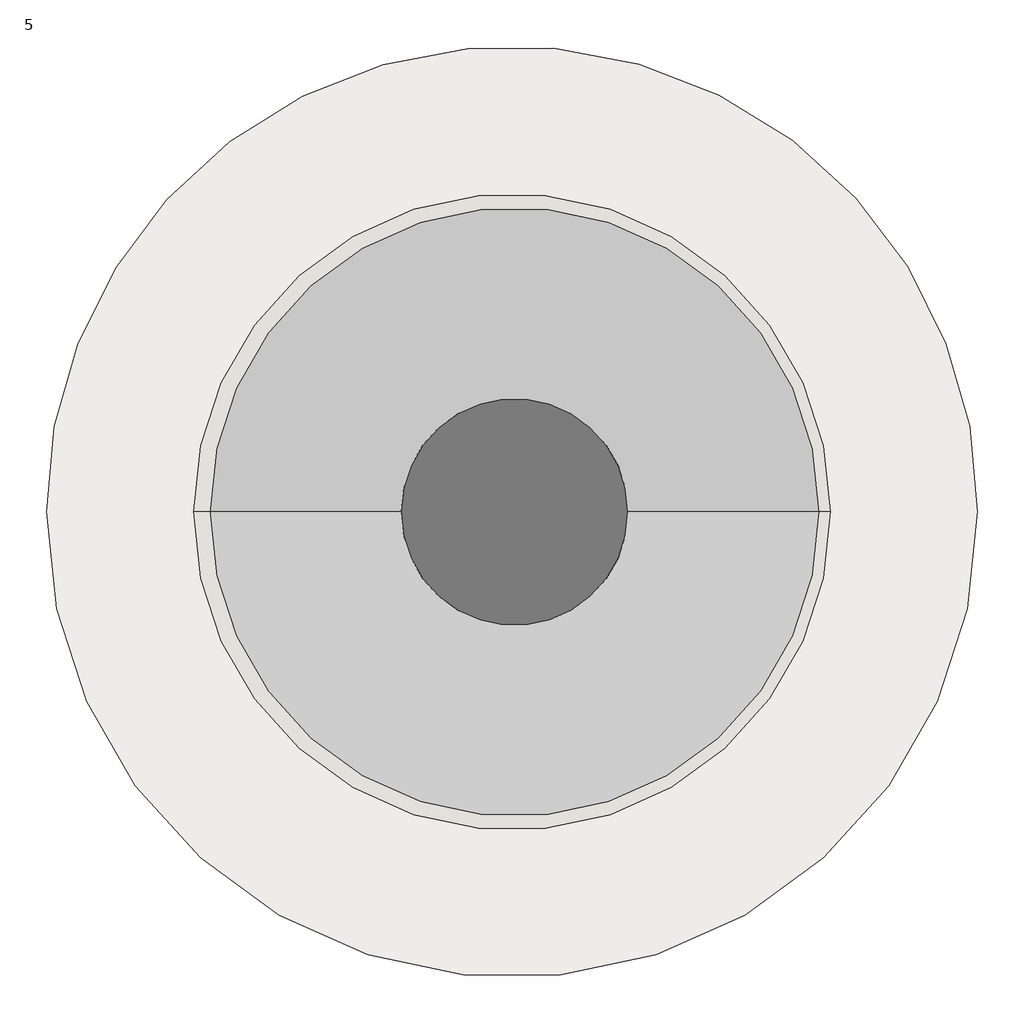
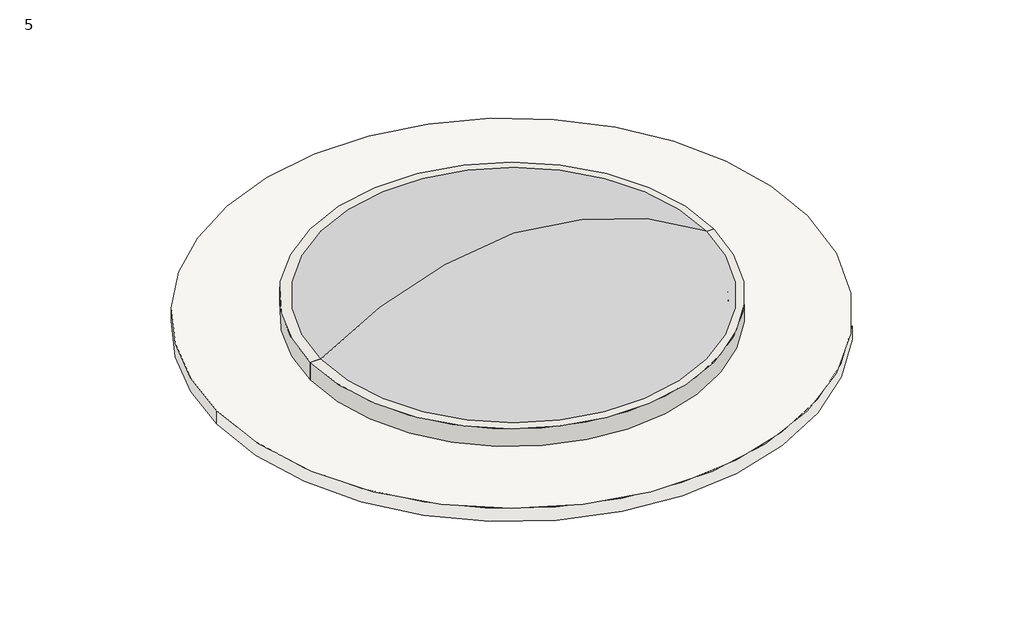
# One storey: 2 walls, 1 proxy, 1 slab.
"""IFC4 building model written with IfcOpenShell, lengths in millimetres."""

from ifc_helpers import new_model, si_unit, point, frame, frame_2d, origin, place, context, project, spatial, polyline, circle_curve, trimmed, segment, composite_curve, outline, extrude, transform, mapped, element, save
from components import generic_models_4_generic_models_4_6c048f05

model = new_model("IFC4")

# Units and contexts
model_context = context("Model", 3, world=origin())
ifc_project = project(units=[si_unit("LENGTHUNIT", "METRE", prefix="MILLI")], contexts=[model_context])

# Site, building, storey
site = spatial("IfcSite", under=ifc_project)
building = spatial("IfcBuilding", under=site)
storey = spatial("IfcBuildingStorey", under=building, Name="5", Elevation=10744.2)

# Proxy
placement = place(None, origin())
generic_models_4_generic_models_4_shape = generic_models_4_generic_models_4_6c048f05(model_context)
element("IfcBuildingElementProxy", 1, Name="Generic Models 4 : Generic Models 4", ObjectType="Generic Models 4 : Generic Models 4", at=placement, inside=storey, context=model_context, shape_type="MappedRepresentation", body=[
    mapped(generic_models_4_generic_models_4_shape, transform((0.0, 0.0, 0.0), x_axis=(1.0, 0.0, 0.0), y_axis=(0.0, 1.0, 0.0), z_axis=(0.0, 0.0, 1.0))),
])

# Slab
element("IfcSlab", 2, ObjectType="230mm slab 2", at=placement, inside=storey, context=model_context, shape_type="SweptSolid", body=[
    extrude(outline(composite_curve([segment(trimmed(circle_curve(frame_2d((-8388.5950906, 536.0156211)), 4813.3), [point((-13201.8950906, 536.0156211))], [point((-11306.3212904, 4364.1653978))], False, "CARTESIAN"), True, "CONTINUOUS"), segment(trimmed(circle_curve(frame_2d((-8388.5950906, 536.0156211)), 4813.3), [point((-11306.3212904, 4364.1653978))], [point((-5490.3518721, 4378.9367934))], False, "CARTESIAN"), True, "CONTINUOUS"), segment(trimmed(circle_curve(frame_2d((-8388.5950906, 536.0156211)), 4813.3), [point((-5490.3518721, 4378.9367934))], [point((-3575.2950906, 536.0156211))], False, "CARTESIAN"), True, "CONTINUOUS"), segment(trimmed(circle_curve(frame_2d((-8388.5950906, 536.0156211)), 4813.3), [point((-3575.2950906, 536.0156211))], [point((-13201.8950906, 536.0156211))], False, "CARTESIAN"), True, "CONTINUOUS")], self_intersect=False), holes=[composite_curve([segment(trimmed(circle_curve(frame_2d((-8388.5950906, 536.0156211)), 3060.7), [point((-11449.2950906, 536.0156211))], [point((-5327.8950906, 536.0156211))], True, "CARTESIAN"), True, "CONTINUOUS"), segment(trimmed(circle_curve(frame_2d((-8388.5950906, 536.0156211)), 3060.7), [point((-5327.8950906, 536.0156211))], [point((-11449.2950906, 536.0156211))], True, "CARTESIAN"), True, "CONTINUOUS")], self_intersect=False)]), frame((0.0, 0.0, 10515.6), z_axis=(0.0, 0.0, 1.0), x_axis=(1.0, 0.0, 0.0)), (0.0, 0.0, 1.0), 228.6),
])

# Walls
element("IfcWall", 3, ObjectType="PARAPET", at=placement, inside=storey, context=model_context, shape_type="SweptSolid", body=[
    extrude(outline(composite_curve([segment(polyline([(-5099.2950906, 536.0156211), (-5327.8950906, 536.0156211)]), True, "CONTINUOUS"), segment(trimmed(circle_curve(frame_2d((-8388.5950906, 536.0156211)), 3060.7), [point((-5327.8950906, 536.0156211))], [point((-11449.2950906, 536.0156211))], True, "CARTESIAN"), True, "CONTINUOUS"), segment(polyline([(-11449.2950906, 536.0156211), (-11677.8950906, 536.0156211)]), True, "CONTINUOUS"), segment(trimmed(circle_curve(frame_2d((-8388.5950906, 536.0156211)), 3289.3), [point((-11677.8950906, 536.0156211))], [point((-5099.2950906, 536.0156211))], False, "CARTESIAN"), True, "CONTINUOUS")], self_intersect=False)), frame((0.0, 0.0, 10744.2), z_axis=(0.0, 0.0, 1.0), x_axis=(1.0, 0.0, 0.0)), (0.0, 0.0, 1.0), 304.8),
])
element("IfcWall", 4, ObjectType="PARAPET", at=placement, inside=storey, context=model_context, shape_type="SweptSolid", body=[
    extrude(outline(composite_curve([segment(polyline([(-11677.8950906, 536.0156211), (-11449.2950906, 536.0156211)]), True, "CONTINUOUS"), segment(trimmed(circle_curve(frame_2d((-8388.5950906, 536.0156211)), 3060.7), [point((-11449.2950906, 536.0156211))], [point((-5327.8950906, 536.0156211))], True, "CARTESIAN"), True, "CONTINUOUS"), segment(polyline([(-5327.8950906, 536.0156211), (-5099.2950906, 536.0156211)]), True, "CONTINUOUS"), segment(trimmed(circle_curve(frame_2d((-8388.5950906, 536.0156211)), 3289.3), [point((-5099.2950906, 536.0156211))], [point((-11677.8950906, 536.0156211))], False, "CARTESIAN"), True, "CONTINUOUS")], self_intersect=False)), frame((0.0, 0.0, 10744.2), z_axis=(0.0, 0.0, 1.0), x_axis=(1.0, 0.0, 0.0)), (0.0, 0.0, 1.0), 304.8),
])

save(model, "model.ifc")
